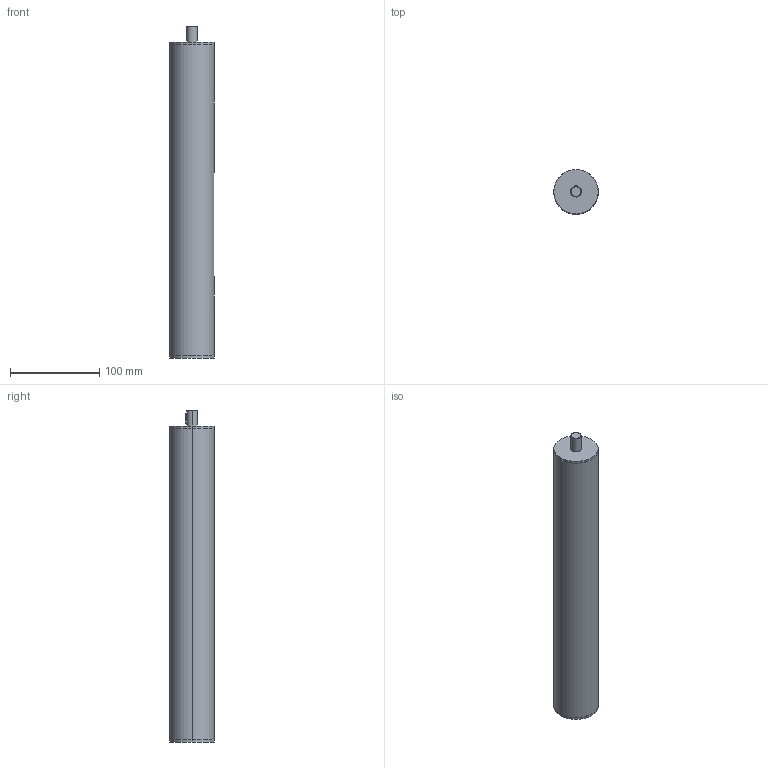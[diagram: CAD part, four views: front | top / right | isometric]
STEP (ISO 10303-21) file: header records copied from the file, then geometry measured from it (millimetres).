
FILE_DESCRIPTION (( 'STEP AP214' ), '1' );
FILE_NAME ('291-50-115-R1-SCR.step', '2023-08-30T05:21:45', ( '' ), ( '' ), 'SwSTEP 2.0', 'SolidWorks 2022', '' );
FILE_SCHEMA (( 'AUTOMOTIVE_DESIGN' ));
Length unit declared in the file: millimetre
Products named in the file (3): 291-50-115-R1-SCR; WB2910 mutter^WBVES_Tr20-M6; WB2910 Rund^WBVES_50-115-1
Assembly tree (2 placements, depth 2):
  291-50-115-R1-SCR
    WB2910 mutter^WBVES_Tr20-M6
    WB2910 Rund^WBVES_50-115-1
Bounding box: 50 x 50 x 373 mm (x, y, z)
Volume: 290517.5 mm3; surface area: 147555.8 mm2
Topology: 2 solids, 2 shells, 48 faces, 112 edges, 70 vertices
Faces by surface type: cylinder 25, plane 17, cone 6
Entity records: 1847 total; most frequent: CARTESIAN_POINT 426, DIRECTION 246, ORIENTED_EDGE 216, EDGE_CURVE 108, AXIS2_PLACEMENT_3D 96, VERTEX_POINT 70, EDGE_LOOP 58, VECTOR 54
